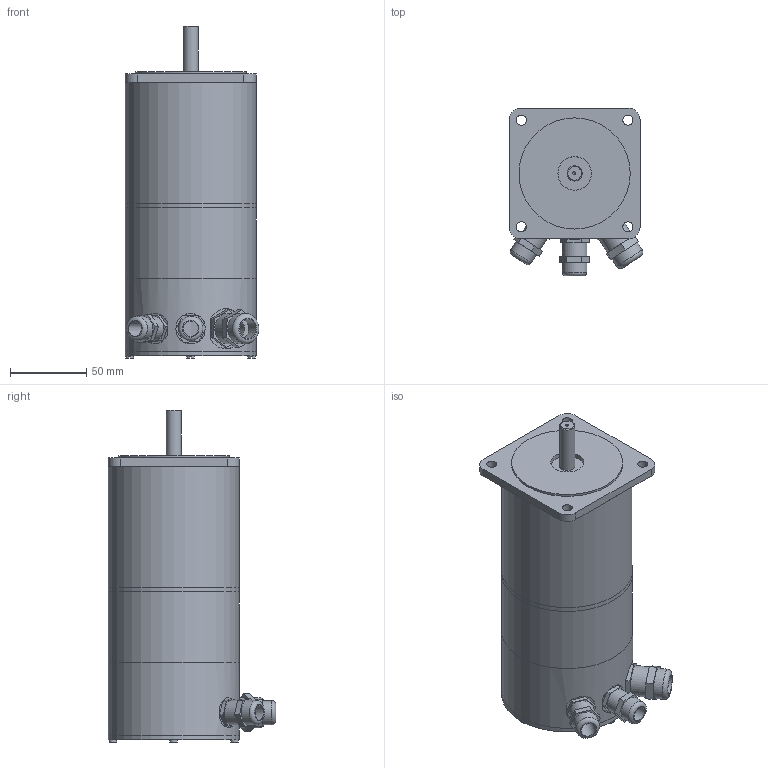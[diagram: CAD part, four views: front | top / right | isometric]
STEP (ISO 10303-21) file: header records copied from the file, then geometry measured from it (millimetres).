
FILE_DESCRIPTION((''),'2;1');
FILE_NAME('C:\Users\Reinhard\Documents\Inventor\Testschrittmotor\SM87\SM87.2-BH200-KV.stp','2012-11-14T20:26:41',('Reinhard'),(''),'Autodesk Inventor 2012','Autodesk Inventor 2012','');
FILE_SCHEMA(('CONFIG_CONTROL_DESIGN'));
Length unit declared in the file: millimetre
Products named in the file (1): SM87
Bounding box: 87.8 x 110 x 218 mm (x, y, z)
Volume: 208004 mm3; surface area: 140288.7 mm2
Topology: 2 solids, 3 shells, 166 faces, 378 edges, 248 vertices
Faces by surface type: plane 106, cylinder 55, torus 3, cone 2
Full cylindrical faces by diameter (mm): 2 x1, 5 x4, 6.6 x4, 10 x3, 12 x3, 13 x2, 15 x1, 16 x4, 18.376 x1, 20 x3, 22 x1, 73 x1, 78 x2, 82 x2, 86 x5
Entity records: 4581 total; most frequent: CARTESIAN_POINT 938, DIRECTION 750, ORIENTED_EDGE 652, EDGE_CURVE 326, AXIS2_PLACEMENT_3D 280, EDGE_LOOP 254, VERTEX_POINT 238, VECTOR 190
